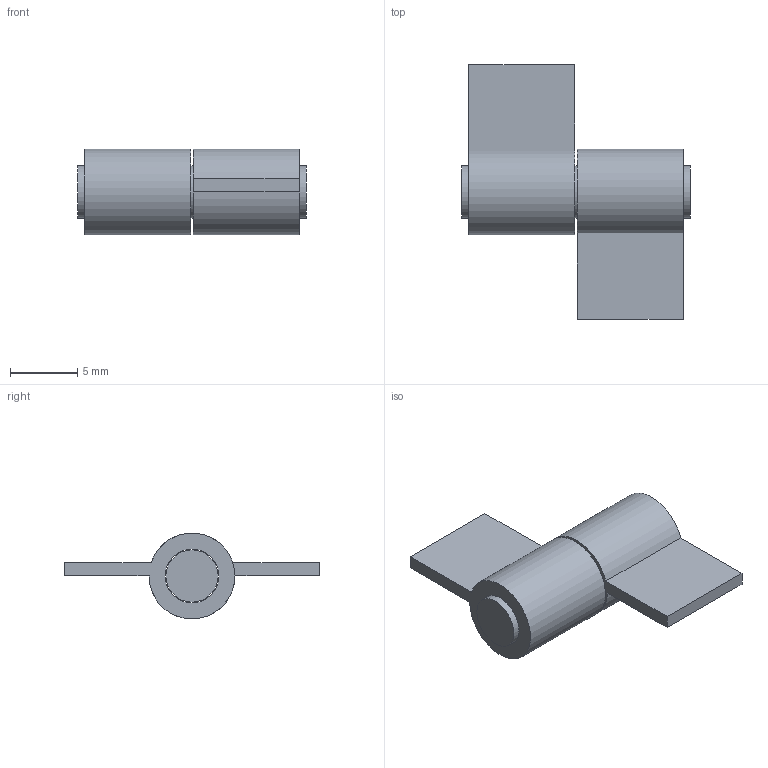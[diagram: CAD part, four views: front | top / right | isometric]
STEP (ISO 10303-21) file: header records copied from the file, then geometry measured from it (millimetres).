
FILE_DESCRIPTION(('Open CASCADE Model'),'2;1');
FILE_NAME('Open CASCADE Shape Model','2026-11-25T12:49:16',('Author'),( 'Open CASCADE'),'Open CASCADE STEP processor 8.0','Open CASCADE 8.0' ,'Unknown');
FILE_SCHEMA(('AP242_MANAGED_MODEL_BASED_3D_ENGINEERING_MIM_LF {1 0 10303 442 1 1 4 }' ));
Length unit declared in the file: millimetre
Products named in the file (3): Hinge leaf A; Hinge leaf B; Hinge pin
Bounding box: 17 x 19 x 6.39 mm (x, y, z)
Volume: 613.2 mm3; surface area: 1053.6 mm2
Topology: 3 solids, 3 shells, 17 faces, 33 edges, 22 vertices
Faces by surface type: plane 12, cylinder 5
Full cylindrical faces by diameter (mm): 3.9 x1, 4 x2
Entity records: 922 total; most frequent: CARTESIAN_POINT 151, DIRECTION 138, LINE 73, VECTOR 73, ORIENTED_EDGE 66, PCURVE 66, DEFINITIONAL_REPRESENTATION 66, EDGE_CURVE 33
